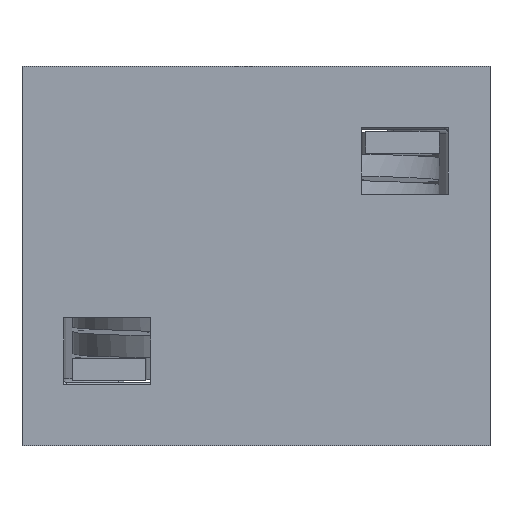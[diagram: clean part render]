
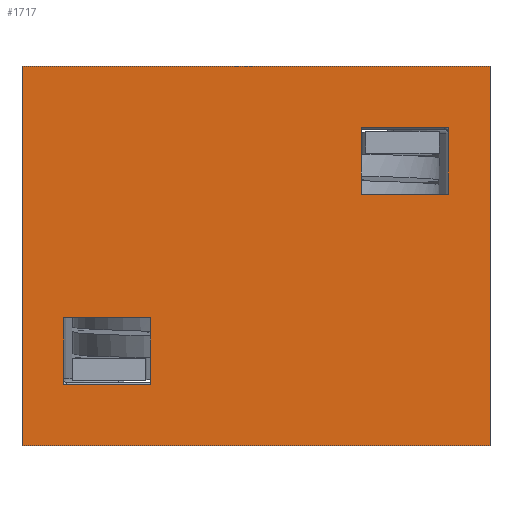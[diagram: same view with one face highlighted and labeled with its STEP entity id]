
A CAD part, front view. The second image highlights one B-rep face of the part: STEP entity #1717.
In plain terms, the highlighted planar face has unit normal (0, -1, 0).
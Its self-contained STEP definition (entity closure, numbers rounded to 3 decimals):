
#48 = CARTESIAN_POINT ( 'NONE',  ( 23.262, 0., -6.99 ) ) ;
#58 = EDGE_CURVE ( 'NONE', #3448, #3694, #4502, .T. ) ;
#96 = CARTESIAN_POINT ( 'NONE',  ( 2.265, 0., -13.737 ) ) ;
#147 = ORIENTED_EDGE ( 'NONE', *, *, #3105, .F. ) ;
#161 = VERTEX_POINT ( 'NONE', #3002 ) ;
#379 = LINE ( 'NONE', #1050, #2334 ) ;
#400 = CARTESIAN_POINT ( 'NONE',  ( 23.262, 0., -6.99 ) ) ;
#403 = ORIENTED_EDGE ( 'NONE', *, *, #858, .T. ) ;
#445 = VECTOR ( 'NONE', #2758, 1000. ) ;
#486 = CARTESIAN_POINT ( 'NONE',  ( 18.512, 0., -6.99 ) ) ;
#506 = CARTESIAN_POINT ( 'NONE',  ( 18.512, 0., -6.99 ) ) ;
#528 = VERTEX_POINT ( 'NONE', #2041 ) ;
#586 = VERTEX_POINT ( 'NONE', #3918 ) ;
#639 = CARTESIAN_POINT ( 'NONE',  ( 25.527, 0., 0. ) ) ;
#694 = ORIENTED_EDGE ( 'NONE', *, *, #58, .F. ) ;
#704 = EDGE_CURVE ( 'NONE', #3220, #4185, #3176, .T. ) ;
#705 = ORIENTED_EDGE ( 'NONE', *, *, #1522, .T. ) ;
#742 = ORIENTED_EDGE ( 'NONE', *, *, #2436, .T. ) ;
#759 = VERTEX_POINT ( 'NONE', #96 ) ;
#802 = FACE_BOUND ( 'NONE', #3450, .T. ) ;
#815 = LINE ( 'NONE', #2025, #2738 ) ;
#822 = DIRECTION ( 'NONE',  ( 0., -1., 0. ) ) ;
#835 = DIRECTION ( 'NONE',  ( 0., 0., -1. ) ) ;
#836 = VECTOR ( 'NONE', #4427, 1000. ) ;
#858 = EDGE_CURVE ( 'NONE', #4602, #528, #2207, .T. ) ;
#910 = CARTESIAN_POINT ( 'NONE',  ( 7.015, 0., -13.737 ) ) ;
#1037 = ORIENTED_EDGE ( 'NONE', *, *, #3482, .F. ) ;
#1050 = CARTESIAN_POINT ( 'NONE',  ( 0., 0., 0. ) ) ;
#1202 = ORIENTED_EDGE ( 'NONE', *, *, #2179, .T. ) ;
#1267 = EDGE_LOOP ( 'NONE', ( #2310, #2355, #705, #3695 ) ) ;
#1376 = LINE ( 'NONE', #48, #445 ) ;
#1425 = DIRECTION ( 'NONE',  ( 0., 0., 1. ) ) ;
#1502 = DIRECTION ( 'NONE',  ( 1., 0., 0. ) ) ;
#1522 = EDGE_CURVE ( 'NONE', #759, #3220, #3764, .T. ) ;
#1590 = LINE ( 'NONE', #400, #3615 ) ;
#1626 = VECTOR ( 'NONE', #4406, 1000. ) ;
#1694 = ORIENTED_EDGE ( 'NONE', *, *, #3078, .F. ) ;
#1717 = ADVANCED_FACE ( 'NONE', ( #3507, #1830, #802 ), #2201, .T. ) ;
#1770 = CARTESIAN_POINT ( 'NONE',  ( 2.265, 0., -13.737 ) ) ;
#1830 = FACE_BOUND ( 'NONE', #1267, .T. ) ;
#1897 = EDGE_CURVE ( 'NONE', #4185, #4202, #4731, .T. ) ;
#1938 = CARTESIAN_POINT ( 'NONE',  ( 25.527, 0., -20.727 ) ) ;
#2025 = CARTESIAN_POINT ( 'NONE',  ( 0., 0., 0. ) ) ;
#2030 = DIRECTION ( 'NONE',  ( 0., 0., 1. ) ) ;
#2041 = CARTESIAN_POINT ( 'NONE',  ( 18.512, 0., -3.365 ) ) ;
#2179 = EDGE_CURVE ( 'NONE', #528, #2222, #3546, .T. ) ;
#2201 = PLANE ( 'NONE',  #2254 ) ;
#2207 = LINE ( 'NONE', #486, #2984 ) ;
#2222 = VERTEX_POINT ( 'NONE', #4038 ) ;
#2254 = AXIS2_PLACEMENT_3D ( 'NONE', #3442, #822, #835 ) ;
#2310 = ORIENTED_EDGE ( 'NONE', *, *, #1897, .T. ) ;
#2334 = VECTOR ( 'NONE', #1425, 1000. ) ;
#2355 = ORIENTED_EDGE ( 'NONE', *, *, #3349, .T. ) ;
#2436 = EDGE_CURVE ( 'NONE', #586, #4602, #1590, .T. ) ;
#2515 = DIRECTION ( 'NONE',  ( 1., 0., 0. ) ) ;
#2532 = EDGE_CURVE ( 'NONE', #2222, #586, #1376, .T. ) ;
#2545 = CARTESIAN_POINT ( 'NONE',  ( 2.265, 0., -17.362 ) ) ;
#2583 = CARTESIAN_POINT ( 'NONE',  ( 25.527, 0., 0. ) ) ;
#2697 = LINE ( 'NONE', #1770, #1626 ) ;
#2738 = VECTOR ( 'NONE', #3869, 1000. ) ;
#2758 = DIRECTION ( 'NONE',  ( 0., 0., -1. ) ) ;
#2773 = VECTOR ( 'NONE', #1502, 1000. ) ;
#2902 = DIRECTION ( 'NONE',  ( 0., 0., -1. ) ) ;
#2914 = CARTESIAN_POINT ( 'NONE',  ( 2.265, 0., -17.362 ) ) ;
#2984 = VECTOR ( 'NONE', #2030, 1000. ) ;
#3002 = CARTESIAN_POINT ( 'NONE',  ( 0., 0., -20.727 ) ) ;
#3078 = EDGE_CURVE ( 'NONE', #3452, #3448, #815, .T. ) ;
#3105 = EDGE_CURVE ( 'NONE', #3694, #161, #4579, .T. ) ;
#3106 = DIRECTION ( 'NONE',  ( -1., 0., 0. ) ) ;
#3176 = LINE ( 'NONE', #910, #4162 ) ;
#3201 = CARTESIAN_POINT ( 'NONE',  ( 7.015, 0., -13.737 ) ) ;
#3220 = VERTEX_POINT ( 'NONE', #3201 ) ;
#3349 = EDGE_CURVE ( 'NONE', #4202, #759, #2697, .T. ) ;
#3442 = CARTESIAN_POINT ( 'NONE',  ( 0., 0., 0. ) ) ;
#3448 = VERTEX_POINT ( 'NONE', #2583 ) ;
#3449 = VECTOR ( 'NONE', #2515, 1000. ) ;
#3450 = EDGE_LOOP ( 'NONE', ( #1202, #4195, #742, #403 ) ) ;
#3452 = VERTEX_POINT ( 'NONE', #4800 ) ;
#3482 = EDGE_CURVE ( 'NONE', #161, #3452, #379, .T. ) ;
#3507 = FACE_OUTER_BOUND ( 'NONE', #3880, .T. ) ;
#3530 = DIRECTION ( 'NONE',  ( -1., 0., 0. ) ) ;
#3546 = LINE ( 'NONE', #3973, #3449 ) ;
#3615 = VECTOR ( 'NONE', #3106, 1000. ) ;
#3694 = VERTEX_POINT ( 'NONE', #1938 ) ;
#3695 = ORIENTED_EDGE ( 'NONE', *, *, #704, .T. ) ;
#3764 = LINE ( 'NONE', #4360, #2773 ) ;
#3869 = DIRECTION ( 'NONE',  ( 1., 0., 0. ) ) ;
#3880 = EDGE_LOOP ( 'NONE', ( #1037, #147, #694, #1694 ) ) ;
#3910 = DIRECTION ( 'NONE',  ( 0., 0., -1. ) ) ;
#3918 = CARTESIAN_POINT ( 'NONE',  ( 23.262, 0., -6.99 ) ) ;
#3973 = CARTESIAN_POINT ( 'NONE',  ( 23.262, 0., -3.365 ) ) ;
#4038 = CARTESIAN_POINT ( 'NONE',  ( 23.262, 0., -3.365 ) ) ;
#4162 = VECTOR ( 'NONE', #3910, 1000. ) ;
#4185 = VERTEX_POINT ( 'NONE', #4367 ) ;
#4195 = ORIENTED_EDGE ( 'NONE', *, *, #2532, .T. ) ;
#4202 = VERTEX_POINT ( 'NONE', #2914 ) ;
#4360 = CARTESIAN_POINT ( 'NONE',  ( 2.265, 0., -13.737 ) ) ;
#4367 = CARTESIAN_POINT ( 'NONE',  ( 7.015, 0., -17.362 ) ) ;
#4377 = VECTOR ( 'NONE', #2902, 1000. ) ;
#4406 = DIRECTION ( 'NONE',  ( 0., 0., 1. ) ) ;
#4427 = DIRECTION ( 'NONE',  ( -1., 0., 0. ) ) ;
#4487 = VECTOR ( 'NONE', #3530, 1000. ) ;
#4502 = LINE ( 'NONE', #639, #4377 ) ;
#4579 = LINE ( 'NONE', #4634, #4487 ) ;
#4602 = VERTEX_POINT ( 'NONE', #506 ) ;
#4634 = CARTESIAN_POINT ( 'NONE',  ( 0., 0., -20.727 ) ) ;
#4731 = LINE ( 'NONE', #2545, #836 ) ;
#4800 = CARTESIAN_POINT ( 'NONE',  ( 0., 0., 0. ) ) ;
